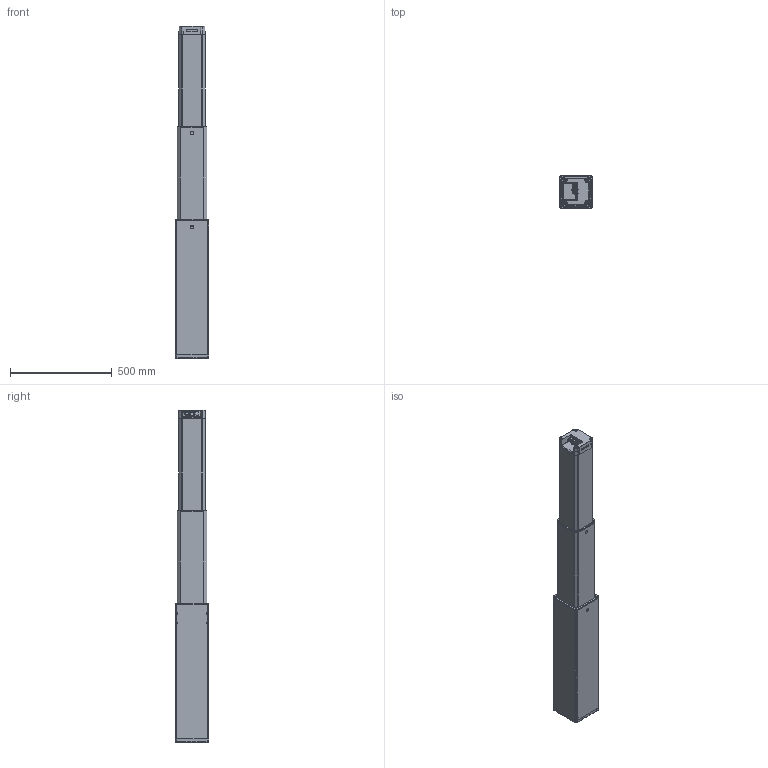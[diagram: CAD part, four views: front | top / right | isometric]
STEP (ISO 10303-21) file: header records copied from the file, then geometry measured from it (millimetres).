
FILE_DESCRIPTION((''),'2;1');
FILE_NAME('ELEVATE_900MM_OUT_ASM','2025-02-10T13:50:38',('maho'),(''),'CREO PARAMETRIC BY PTC INC, 2022024','CREO PARAMETRIC BY PTC INC, 2022024','');
FILE_SCHEMA(('AUTOMOTIVE_DESIGN { 1 0 10303 214 1 1 1 1 }'));
Products named in the file (20): 0002601_1_1_2_3_4_5_6_7_1; 1002W4025_ASM_1_1_2_3_4_5_6_7_A_ASM; 0002002_1_1_2_3_4_5_6_7_1; 1002W4019_ASM_1_1_2_3_4_5_6_7_A_ASM; 1002W4003__1_1_2_3_4_5_6_7_1; 1002W4004__1_1_2_3_4_5_6_7_1; 1002W4005__1_1_2_3_4_5_6_7_1; 1002W4006_1_1_2_3_4_5_6_7_1; 1002W4007_1_1_2_3_4_5_6_7_1; 1002W4012_1_1_2_3_4_5_6_7_1; TEC-0003335_1_1_2_3_4_5_6_7_1; TEC-0001926_1_1_2_3_4_5_6_7_1; TEC-0003336_1_1_2_3_4_5_6_7_1; TEC-0001888_ASM_1_1_2_3_4_5_6_7_ASM; 0002068_1_1_2; NUT_FOR_PROFILE_HOLE_1_1_2; BID730_SL900_ASM_1_ASM; 1002W1392; 0002068; ELEVATE_900MM_OUT_ASM
Assembly tree (44 placements, depth 5):
  ELEVATE_900MM_OUT_ASM
    BID730_SL900_ASM_1_ASM
      TEC-0001888_ASM_1_1_2_3_4_5_6_7_ASM
        1002W4025_ASM_1_1_2_3_4_5_6_7_A_ASM
          0002601_1_1_2_3_4_5_6_7_1  x6
        1002W4019_ASM_1_1_2_3_4_5_6_7_A_ASM
          0002002_1_1_2_3_4_5_6_7_1  x6
          0002601_1_1_2_3_4_5_6_7_1  x12
        1002W4003__1_1_2_3_4_5_6_7_1
        1002W4004__1_1_2_3_4_5_6_7_1
        1002W4005__1_1_2_3_4_5_6_7_1
        1002W4006_1_1_2_3_4_5_6_7_1
        1002W4007_1_1_2_3_4_5_6_7_1
        1002W4012_1_1_2_3_4_5_6_7_1
        TEC-0003335_1_1_2_3_4_5_6_7_1
        TEC-0001926_1_1_2_3_4_5_6_7_1
        TEC-0003336_1_1_2_3_4_5_6_7_1  x3
      0002068_1_1_2
      NUT_FOR_PROFILE_HOLE_1_1_2  x2
    1002W1392
    0002068
Bounding box: 163 x 163.07 x 1630 mm (x, y, z)
Volume: 42018704.6 mm3; surface area: 1709762.8 mm2
Topology: 40 solids, 41 shells, 2545 faces, 7031 edges, 4583 vertices
Faces by surface type: cylinder 1112, plane 655, cone 320, torus 218, bspline 194, sphere 46
Entity records: 72939 total; most frequent: CARTESIAN_POINT 24603, DIRECTION 9712, ORIENTED_EDGE 9352, EDGE_CURVE 4676, AXIS2_PLACEMENT_3D 3942, VERTEX_POINT 3036, CIRCLE 2232, EDGE_LOOP 1870
